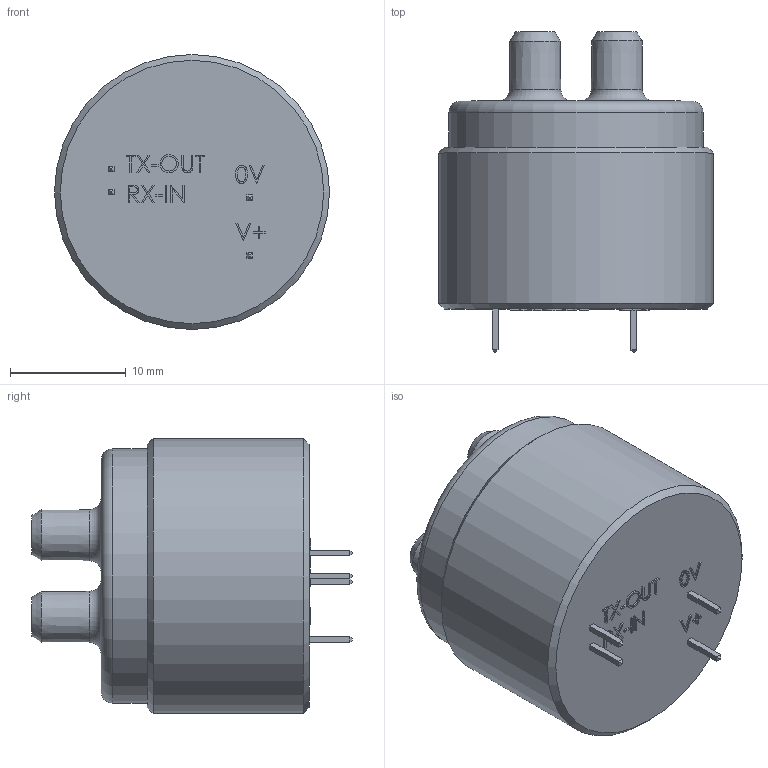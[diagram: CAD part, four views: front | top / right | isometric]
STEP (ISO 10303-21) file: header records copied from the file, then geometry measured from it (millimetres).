
FILE_DESCRIPTION (( 'STEP AP214' ), '1' );
FILE_NAME ('SPRINTIR6S.STEP', '2017-06-20T10:28:58', ( '' ), ( '' ), 'SwSTEP 2.0', 'SolidWorks 2015', '' );
FILE_SCHEMA (( 'AUTOMOTIVE_DESIGN' ));
Length unit declared in the file: millimetre
Products named in the file (1): SPRINTIR6S
Bounding box: 23.8 x 27.74 x 23.8 mm (x, y, z)
Volume: 7827.6 mm3; surface area: 2479.7 mm2
Topology: 1 solids, 1 shells, 208 faces, 520 edges, 341 vertices
Faces by surface type: plane 164, bspline 29, cone 8, cylinder 4, torus 3
Full cylindrical faces by diameter (mm): 2 x2, 22 x1, 23.8 x1
Entity records: 9960 total; most frequent: CARTESIAN_POINT 3362, ORIENTED_EDGE 1002, DIRECTION 818, EDGE_CURVE 501, LINE 424, VECTOR 424, VERTEX_POINT 335, EDGE_LOOP 248
